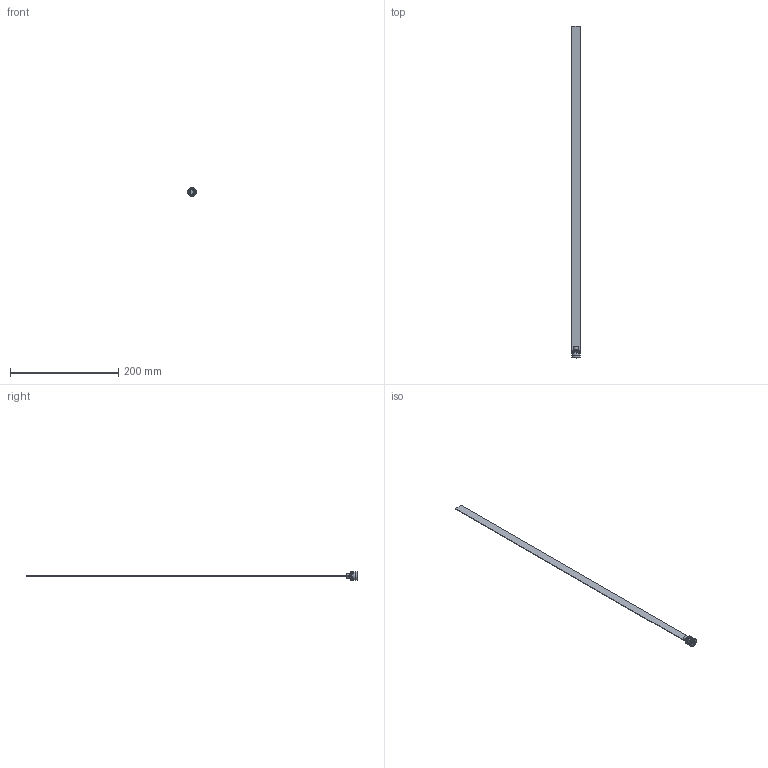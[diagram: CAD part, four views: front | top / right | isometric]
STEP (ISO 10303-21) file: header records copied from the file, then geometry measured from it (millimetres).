
FILE_DESCRIPTION (( 'STEP AP203' ), '1' );
FILE_NAME ('RL15Fx600.STEP', '2015-12-02T15:02:23', ( 'Balzi' ), ( '' ), 'SwSTEP 2.0', 'SolidWorks 2015', '' );
FILE_SCHEMA (( 'CONFIG_CONTROL_DESIGN' ));
Length unit declared in the file: millimetre
Products named in the file (1): RL15Fx600
Bounding box: 16.25 x 614 x 16.25 mm (x, y, z)
Volume: 11485.2 mm3; surface area: 20569.6 mm2
Topology: 1 solids, 1 shells, 72 faces, 171 edges, 105 vertices
Faces by surface type: plane 30, cylinder 17, cone 17, torus 8
Entity records: 2165 total; most frequent: CARTESIAN_POINT 399, DIRECTION 370, ORIENTED_EDGE 342, EDGE_CURVE 171, AXIS2_PLACEMENT_3D 140, VERTEX_POINT 105, LINE 90, VECTOR 90
